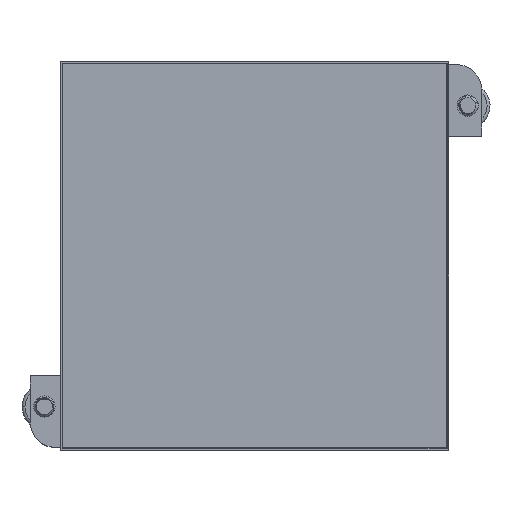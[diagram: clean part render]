
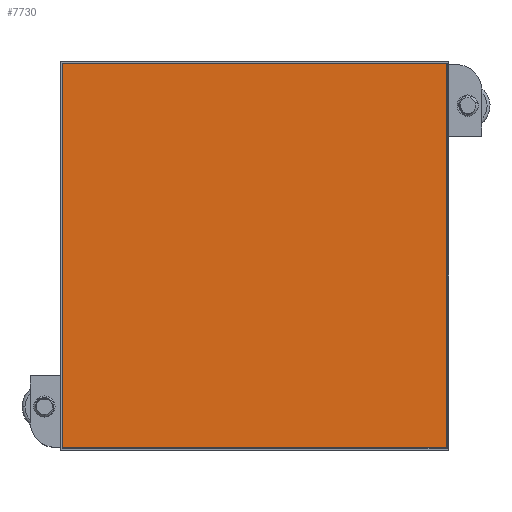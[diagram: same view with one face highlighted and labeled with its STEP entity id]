
A CAD part, top view. The second image highlights one B-rep face of the part: STEP entity #7730.
In plain terms, the highlighted planar face has unit normal (0, 0, 1).
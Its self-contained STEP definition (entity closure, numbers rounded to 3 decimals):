
#350 = VERTEX_POINT ( 'NONE', #6130 ) ;
#778 = PLANE ( 'NONE',  #5137 ) ;
#1002 = ORIENTED_EDGE ( 'NONE', *, *, #19264, .F. ) ;
#1140 = FACE_OUTER_BOUND ( 'NONE', #16529, .T. ) ;
#1266 = CARTESIAN_POINT ( 'NONE',  ( 0., 0., 85.217 ) ) ;
#1542 = ORIENTED_EDGE ( 'NONE', *, *, #7217, .F. ) ;
#1577 = VECTOR ( 'NONE', #13248, 1000. ) ;
#2440 = LINE ( 'NONE', #20247, #1577 ) ;
#3266 = CARTESIAN_POINT ( 'NONE',  ( -23.876, 23.876, 85.217 ) ) ;
#5137 = AXIS2_PLACEMENT_3D ( 'NONE', #1266, #18940, #9927 ) ;
#6130 = CARTESIAN_POINT ( 'NONE',  ( 23.876, -23.876, 85.217 ) ) ;
#7217 = EDGE_CURVE ( 'NONE', #350, #16687, #22297, .T. ) ;
#7412 = ORIENTED_EDGE ( 'NONE', *, *, #8829, .F. ) ;
#7730 = ADVANCED_FACE ( 'NONE', ( #1140 ), #778, .F. ) ;
#8829 = EDGE_CURVE ( 'NONE', #18988, #350, #2440, .T. ) ;
#9274 = CARTESIAN_POINT ( 'NONE',  ( 23.876, 23.876, 85.217 ) ) ;
#9927 = DIRECTION ( 'NONE',  ( 0., -1., 0. ) ) ;
#9959 = LINE ( 'NONE', #13640, #16521 ) ;
#10733 = LINE ( 'NONE', #3266, #21568 ) ;
#11020 = CARTESIAN_POINT ( 'NONE',  ( -23.876, -23.876, 85.217 ) ) ;
#13248 = DIRECTION ( 'NONE',  ( 0., -1., 0. ) ) ;
#13640 = CARTESIAN_POINT ( 'NONE',  ( -23.876, -23.876, 85.217 ) ) ;
#14410 = DIRECTION ( 'NONE',  ( 1., 0., 0. ) ) ;
#14505 = CARTESIAN_POINT ( 'NONE',  ( -23.876, 23.876, 85.217 ) ) ;
#16521 = VECTOR ( 'NONE', #19214, 1000. ) ;
#16529 = EDGE_LOOP ( 'NONE', ( #1542, #7412, #18496, #1002 ) ) ;
#16687 = VERTEX_POINT ( 'NONE', #11020 ) ;
#16735 = DIRECTION ( 'NONE',  ( -1., 0., 0. ) ) ;
#18496 = ORIENTED_EDGE ( 'NONE', *, *, #23491, .F. ) ;
#18940 = DIRECTION ( 'NONE',  ( 0., 0., -1. ) ) ;
#18988 = VERTEX_POINT ( 'NONE', #9274 ) ;
#19214 = DIRECTION ( 'NONE',  ( 0., 1., 0. ) ) ;
#19264 = EDGE_CURVE ( 'NONE', #16687, #20097, #9959, .T. ) ;
#20097 = VERTEX_POINT ( 'NONE', #14505 ) ;
#20181 = CARTESIAN_POINT ( 'NONE',  ( 23.876, -23.876, 85.217 ) ) ;
#20247 = CARTESIAN_POINT ( 'NONE',  ( 23.876, 23.876, 85.217 ) ) ;
#20938 = VECTOR ( 'NONE', #16735, 1000. ) ;
#21568 = VECTOR ( 'NONE', #14410, 1000. ) ;
#22297 = LINE ( 'NONE', #20181, #20938 ) ;
#23491 = EDGE_CURVE ( 'NONE', #20097, #18988, #10733, .T. ) ;
